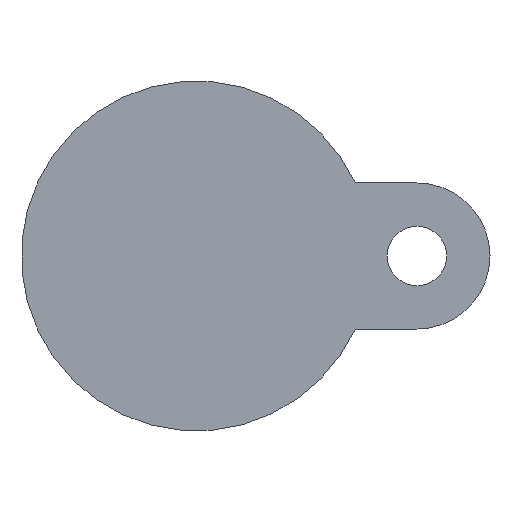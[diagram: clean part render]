
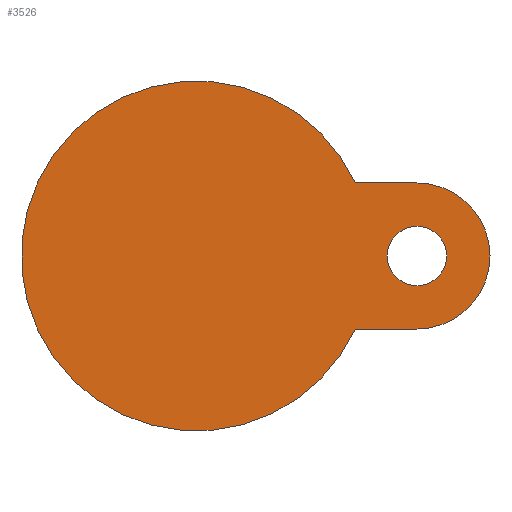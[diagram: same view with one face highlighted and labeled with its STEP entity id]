
A CAD part, front view. The second image highlights one B-rep face of the part: STEP entity #3526.
In plain terms, the highlighted planar face has unit normal (0, -1, 0).
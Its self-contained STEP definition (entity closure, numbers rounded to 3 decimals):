
#22 = AXIS2_PLACEMENT_3D ( 'NONE', #360, #2775, #3766 ) ;
#116 = CARTESIAN_POINT ( 'NONE',  ( 65., -28., 0. ) ) ;
#297 = DIRECTION ( 'NONE',  ( 1., 0., 0. ) ) ;
#312 = VERTEX_POINT ( 'NONE', #1236 ) ;
#360 = CARTESIAN_POINT ( 'NONE',  ( 0., -28., 0. ) ) ;
#397 = VECTOR ( 'NONE', #731, 1000. ) ;
#464 = CIRCLE ( 'NONE', #2395, 8.75 ) ;
#504 = VERTEX_POINT ( 'NONE', #3563 ) ;
#567 = CARTESIAN_POINT ( 'NONE',  ( 65., -28., -21.5 ) ) ;
#702 = ORIENTED_EDGE ( 'NONE', *, *, #2461, .T. ) ;
#731 = DIRECTION ( 'NONE',  ( -1., 0., 0. ) ) ;
#743 = AXIS2_PLACEMENT_3D ( 'NONE', #116, #3232, #2582 ) ;
#899 = FACE_OUTER_BOUND ( 'NONE', #2190, .T. ) ;
#954 = AXIS2_PLACEMENT_3D ( 'NONE', #1050, #1690, #1731 ) ;
#986 = DIRECTION ( 'NONE',  ( 1., 0., 0. ) ) ;
#995 = CARTESIAN_POINT ( 'NONE',  ( 46.797, -28., -21.5 ) ) ;
#996 = DIRECTION ( 'NONE',  ( 0., 1., 0. ) ) ;
#1050 = CARTESIAN_POINT ( 'NONE',  ( 65., -28., 0. ) ) ;
#1091 = VECTOR ( 'NONE', #297, 1000. ) ;
#1236 = CARTESIAN_POINT ( 'NONE',  ( 56.25, -28., 0. ) ) ;
#1245 = CARTESIAN_POINT ( 'NONE',  ( 65., -28., 21.5 ) ) ;
#1459 = AXIS2_PLACEMENT_3D ( 'NONE', #2971, #2273, #986 ) ;
#1535 = ORIENTED_EDGE ( 'NONE', *, *, #4168, .T. ) ;
#1580 = EDGE_LOOP ( 'NONE', ( #1604, #1535 ) ) ;
#1604 = ORIENTED_EDGE ( 'NONE', *, *, #2641, .T. ) ;
#1690 = DIRECTION ( 'NONE',  ( 0., 1., 0. ) ) ;
#1731 = DIRECTION ( 'NONE',  ( -1., 0., 0. ) ) ;
#1925 = VERTEX_POINT ( 'NONE', #567 ) ;
#1971 = EDGE_CURVE ( 'NONE', #504, #2092, #2714, .T. ) ;
#1989 = ORIENTED_EDGE ( 'NONE', *, *, #4365, .F. ) ;
#2092 = VERTEX_POINT ( 'NONE', #1245 ) ;
#2190 = EDGE_LOOP ( 'NONE', ( #702, #1989, #3272, #3136 ) ) ;
#2273 = DIRECTION ( 'NONE',  ( 0., -1., 0. ) ) ;
#2283 = VERTEX_POINT ( 'NONE', #995 ) ;
#2395 = AXIS2_PLACEMENT_3D ( 'NONE', #3388, #996, #3043 ) ;
#2461 = EDGE_CURVE ( 'NONE', #504, #2283, #3095, .T. ) ;
#2582 = DIRECTION ( 'NONE',  ( 1., 0., 0. ) ) ;
#2611 = CARTESIAN_POINT ( 'NONE',  ( 41.5, -28., -21.5 ) ) ;
#2641 = EDGE_CURVE ( 'NONE', #312, #2811, #3973, .T. ) ;
#2714 = LINE ( 'NONE', #3003, #1091 ) ;
#2775 = DIRECTION ( 'NONE',  ( 0., -1., 0. ) ) ;
#2811 = VERTEX_POINT ( 'NONE', #2988 ) ;
#2971 = CARTESIAN_POINT ( 'NONE',  ( 51.5, -28., 0. ) ) ;
#2988 = CARTESIAN_POINT ( 'NONE',  ( 73.75, -28., 0. ) ) ;
#3003 = CARTESIAN_POINT ( 'NONE',  ( 41.5, -28., 21.5 ) ) ;
#3008 = PLANE ( 'NONE',  #1459 ) ;
#3043 = DIRECTION ( 'NONE',  ( -1., 0., 0. ) ) ;
#3095 = CIRCLE ( 'NONE', #22, 51.5 ) ;
#3136 = ORIENTED_EDGE ( 'NONE', *, *, #1971, .F. ) ;
#3232 = DIRECTION ( 'NONE',  ( 0., 1., 0. ) ) ;
#3247 = CIRCLE ( 'NONE', #743, 21.5 ) ;
#3272 = ORIENTED_EDGE ( 'NONE', *, *, #3348, .F. ) ;
#3348 = EDGE_CURVE ( 'NONE', #2092, #1925, #3247, .T. ) ;
#3388 = CARTESIAN_POINT ( 'NONE',  ( 65., -28., 0. ) ) ;
#3526 = ADVANCED_FACE ( 'NONE', ( #3986, #899 ), #3008, .T. ) ;
#3563 = CARTESIAN_POINT ( 'NONE',  ( 46.797, -28., 21.5 ) ) ;
#3766 = DIRECTION ( 'NONE',  ( 1., 0., 0. ) ) ;
#3973 = CIRCLE ( 'NONE', #954, 8.75 ) ;
#3986 = FACE_BOUND ( 'NONE', #1580, .T. ) ;
#4168 = EDGE_CURVE ( 'NONE', #2811, #312, #464, .T. ) ;
#4295 = LINE ( 'NONE', #2611, #397 ) ;
#4365 = EDGE_CURVE ( 'NONE', #1925, #2283, #4295, .T. ) ;
